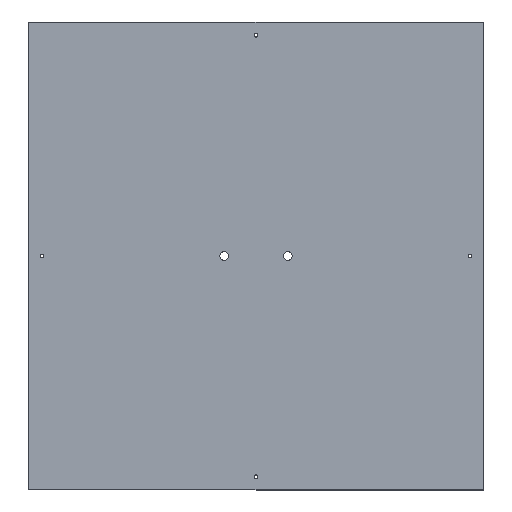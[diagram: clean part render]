
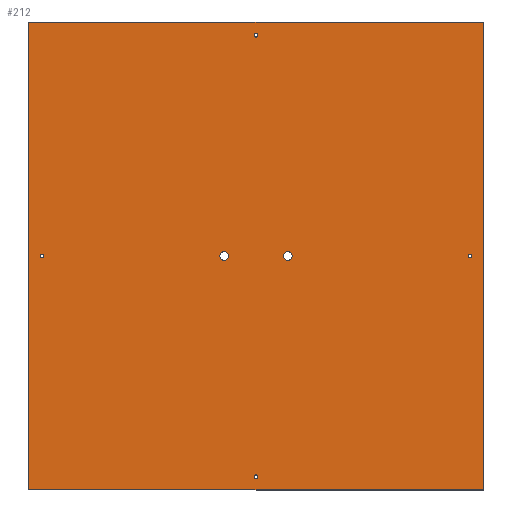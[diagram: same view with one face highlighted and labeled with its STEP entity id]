
A CAD part, top view. The second image highlights one B-rep face of the part: STEP entity #212.
In plain terms, the highlighted planar face has unit normal (0, 0, 1).
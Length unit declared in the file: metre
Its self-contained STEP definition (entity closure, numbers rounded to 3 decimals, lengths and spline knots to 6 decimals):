
#18=LINE('',#337,#30);
#19=LINE('',#340,#31);
#20=LINE('',#342,#32);
#21=LINE('',#344,#33);
#30=VECTOR('',#277,1.);
#31=VECTOR('',#278,1.);
#32=VECTOR('',#279,1.);
#33=VECTOR('',#280,1.);
#42=ORIENTED_EDGE('',*,*,#90,.F.);
#43=ORIENTED_EDGE('',*,*,#91,.F.);
#44=ORIENTED_EDGE('',*,*,#92,.F.);
#45=ORIENTED_EDGE('',*,*,#93,.F.);
#46=ORIENTED_EDGE('',*,*,#94,.F.);
#47=ORIENTED_EDGE('',*,*,#95,.F.);
#48=ORIENTED_EDGE('',*,*,#96,.F.);
#49=ORIENTED_EDGE('',*,*,#97,.T.);
#50=ORIENTED_EDGE('',*,*,#98,.T.);
#51=ORIENTED_EDGE('',*,*,#99,.F.);
#90=EDGE_CURVE('',#114,#114,#134,.T.);
#91=EDGE_CURVE('',#115,#115,#135,.T.);
#92=EDGE_CURVE('',#116,#116,#136,.T.);
#93=EDGE_CURVE('',#117,#117,#137,.T.);
#94=EDGE_CURVE('',#118,#118,#138,.T.);
#95=EDGE_CURVE('',#119,#119,#139,.T.);
#96=EDGE_CURVE('',#120,#121,#18,.T.);
#97=EDGE_CURVE('',#120,#122,#19,.T.);
#98=EDGE_CURVE('',#122,#123,#20,.T.);
#99=EDGE_CURVE('',#121,#123,#21,.T.);
#114=VERTEX_POINT('',#326);
#115=VERTEX_POINT('',#328);
#116=VERTEX_POINT('',#330);
#117=VERTEX_POINT('',#332);
#118=VERTEX_POINT('',#334);
#119=VERTEX_POINT('',#336);
#120=VERTEX_POINT('',#338);
#121=VERTEX_POINT('',#339);
#122=VERTEX_POINT('',#341);
#123=VERTEX_POINT('',#343);
#134=CIRCLE('',#238,0.001613);
#135=CIRCLE('',#239,0.001613);
#136=CIRCLE('',#240,0.001613);
#137=CIRCLE('',#241,0.001613);
#138=CIRCLE('',#242,0.004018);
#139=CIRCLE('',#243,0.004018);
#146=EDGE_LOOP('',(#42));
#147=EDGE_LOOP('',(#43));
#148=EDGE_LOOP('',(#44));
#149=EDGE_LOOP('',(#45));
#150=EDGE_LOOP('',(#46));
#151=EDGE_LOOP('',(#47));
#152=EDGE_LOOP('',(#48,#49,#50,#51));
#176=FACE_BOUND('',#146,.T.);
#177=FACE_BOUND('',#147,.T.);
#178=FACE_BOUND('',#148,.T.);
#179=FACE_BOUND('',#149,.T.);
#180=FACE_BOUND('',#150,.T.);
#181=FACE_BOUND('',#151,.T.);
#182=FACE_BOUND('',#152,.T.);
#206=PLANE('',#237);
#212=ADVANCED_FACE('',(#176,#177,#178,#179,#180,#181,#182),#206,.T.);
#237=AXIS2_PLACEMENT_3D('',#324,#263,#264);
#238=AXIS2_PLACEMENT_3D('',#325,#265,#266);
#239=AXIS2_PLACEMENT_3D('',#327,#267,#268);
#240=AXIS2_PLACEMENT_3D('',#329,#269,#270);
#241=AXIS2_PLACEMENT_3D('',#331,#271,#272);
#242=AXIS2_PLACEMENT_3D('',#333,#273,#274);
#243=AXIS2_PLACEMENT_3D('',#335,#275,#276);
#263=DIRECTION('',(0.,0.,1.));
#264=DIRECTION('',(1.,0.,0.));
#265=DIRECTION('',(0.,0.,1.));
#266=DIRECTION('',(1.,0.,0.));
#267=DIRECTION('',(0.,0.,1.));
#268=DIRECTION('',(1.,0.,0.));
#269=DIRECTION('',(0.,0.,1.));
#270=DIRECTION('',(1.,0.,0.));
#271=DIRECTION('',(0.,0.,1.));
#272=DIRECTION('',(1.,0.,0.));
#273=DIRECTION('',(0.,0.,1.));
#274=DIRECTION('',(1.,0.,0.));
#275=DIRECTION('',(0.,0.,1.));
#276=DIRECTION('',(1.,0.,0.));
#277=DIRECTION('',(1.,0.,0.));
#278=DIRECTION('',(0.,-1.,0.));
#279=DIRECTION('',(1.,0.,0.));
#280=DIRECTION('',(0.,-1.,0.));
#324=CARTESIAN_POINT('',(0.,0.,0.003175));
#325=CARTESIAN_POINT('',(0.,-0.206375,0.003175));
#326=CARTESIAN_POINT('',(0.001613,-0.206375,0.003175));
#327=CARTESIAN_POINT('',(0.,0.206375,0.003175));
#328=CARTESIAN_POINT('',(0.001613,0.206375,0.003175));
#329=CARTESIAN_POINT('',(0.200025,0.,0.003175));
#330=CARTESIAN_POINT('',(0.201638,0.,0.003175));
#331=CARTESIAN_POINT('',(-0.200025,0.,0.003175));
#332=CARTESIAN_POINT('',(-0.198412,0.,0.003175));
#333=CARTESIAN_POINT('',(0.029766,0.,0.003175));
#334=CARTESIAN_POINT('',(0.033784,0.,0.003175));
#335=CARTESIAN_POINT('',(-0.029766,0.,0.003175));
#336=CARTESIAN_POINT('',(-0.025747,0.,0.003175));
#337=CARTESIAN_POINT('',(0.,0.218821,0.003175));
#338=CARTESIAN_POINT('',(-0.212471,0.218821,0.003175));
#339=CARTESIAN_POINT('',(0.212471,0.218821,0.003175));
#340=CARTESIAN_POINT('',(-0.212471,0.,0.003175));
#341=CARTESIAN_POINT('',(-0.212471,-0.218821,0.003175));
#342=CARTESIAN_POINT('',(0.,-0.218821,0.003175));
#343=CARTESIAN_POINT('',(0.212471,-0.218821,0.003175));
#344=CARTESIAN_POINT('',(0.212471,0.,0.003175));
